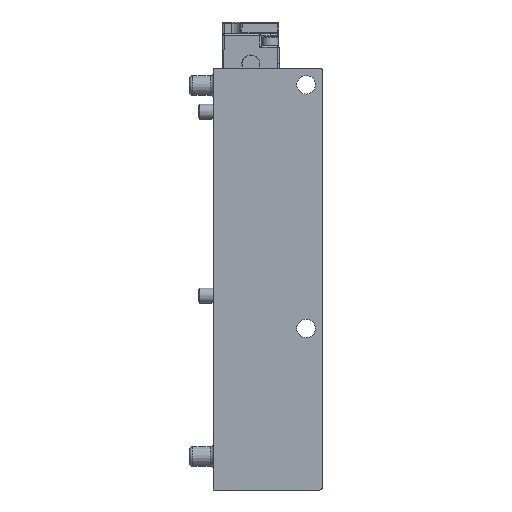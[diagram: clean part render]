
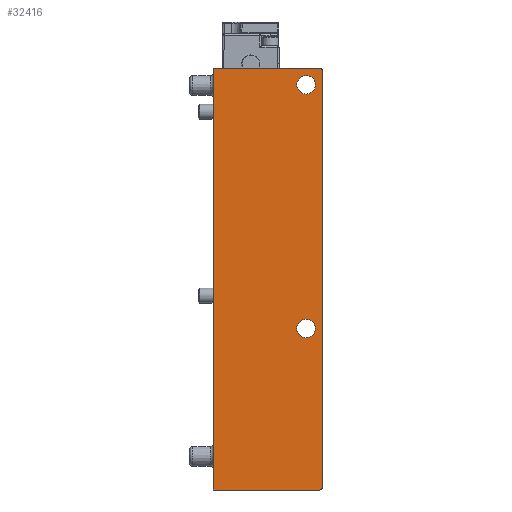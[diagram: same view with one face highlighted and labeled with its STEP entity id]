
A CAD part, front view. The second image highlights one B-rep face of the part: STEP entity #32416.
In plain terms, the highlighted planar face has unit normal (0, -1, 0).
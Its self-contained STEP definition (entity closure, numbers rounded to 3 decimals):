
#2279 = VECTOR ( 'NONE', #80007, 1000. ) ;
#2405 = VERTEX_POINT ( 'NONE', #50021 ) ;
#2565 = EDGE_CURVE ( 'NONE', #52649, #52649, #27931, .T. ) ;
#3887 = FACE_BOUND ( 'NONE', #61712, .T. ) ;
#6764 = DIRECTION ( 'NONE',  ( 1., 0., 0. ) ) ;
#7245 = ORIENTED_EDGE ( 'NONE', *, *, #70561, .F. ) ;
#7317 = CARTESIAN_POINT ( 'NONE',  ( 18.75, 0., 70.5 ) ) ;
#7766 = DIRECTION ( 'NONE',  ( 1., 0., 0. ) ) ;
#8912 = DIRECTION ( 'NONE',  ( 0., -1., 0. ) ) ;
#10322 = CIRCLE ( 'NONE', #57582, 3.093 ) ;
#11714 = LINE ( 'NONE', #28832, #51706 ) ;
#12331 = CARTESIAN_POINT ( 'NONE',  ( 13.25, 0., -16.5 ) ) ;
#13253 = AXIS2_PLACEMENT_3D ( 'NONE', #56800, #8912, #64784 ) ;
#19103 = CARTESIAN_POINT ( 'NONE',  ( 7.75, 0., 70.5 ) ) ;
#19488 = ORIENTED_EDGE ( 'NONE', *, *, #81833, .T. ) ;
#20295 = DIRECTION ( 'NONE',  ( 1., 0., 0. ) ) ;
#21537 = CARTESIAN_POINT ( 'NONE',  ( 18.75, 0., -69.5 ) ) ;
#22509 = EDGE_CURVE ( 'NONE', #98033, #94242, #42981, .T. ) ;
#24144 = CARTESIAN_POINT ( 'NONE',  ( 7.75, 0., 70.5 ) ) ;
#24865 = EDGE_LOOP ( 'NONE', ( #7245, #82029, #90801, #19488, #72263, #35841 ) ) ;
#25000 = FACE_BOUND ( 'NONE', #66107, .T. ) ;
#27121 = DIRECTION ( 'NONE',  ( 1., 0., 0. ) ) ;
#27185 = VECTOR ( 'NONE', #63212, 1000. ) ;
#27931 = CIRCLE ( 'NONE', #85586, 3.093 ) ;
#28832 = CARTESIAN_POINT ( 'NONE',  ( 7.75, 0., -70.5 ) ) ;
#32416 = ADVANCED_FACE ( 'NONE', ( #25000, #3887, #67545 ), #74647, .F. ) ;
#35841 = ORIENTED_EDGE ( 'NONE', *, *, #94249, .T. ) ;
#37251 = LINE ( 'NONE', #37980, #58527 ) ;
#37980 = CARTESIAN_POINT ( 'NONE',  ( -17.75, 0., 70.5 ) ) ;
#42981 = CIRCLE ( 'NONE', #13253, 1. ) ;
#45954 = AXIS2_PLACEMENT_3D ( 'NONE', #103439, #55676, #7766 ) ;
#46028 = DIRECTION ( 'NONE',  ( 0., 0., -1. ) ) ;
#48929 = ORIENTED_EDGE ( 'NONE', *, *, #2565, .T. ) ;
#50021 = CARTESIAN_POINT ( 'NONE',  ( 18.75, 0., 69.5 ) ) ;
#51574 = CARTESIAN_POINT ( 'NONE',  ( -17.75, 0., 70.5 ) ) ;
#51706 = VECTOR ( 'NONE', #69362, 1000. ) ;
#52649 = VERTEX_POINT ( 'NONE', #87013 ) ;
#53485 = CARTESIAN_POINT ( 'NONE',  ( 16.343, 0., 65. ) ) ;
#54563 = CARTESIAN_POINT ( 'NONE',  ( 17.75, 0., -70.5 ) ) ;
#54683 = DIRECTION ( 'NONE',  ( 0., 1., 0. ) ) ;
#55676 = DIRECTION ( 'NONE',  ( 0., -1., 0. ) ) ;
#56800 = CARTESIAN_POINT ( 'NONE',  ( 17.75, 0., -69.5 ) ) ;
#57582 = AXIS2_PLACEMENT_3D ( 'NONE', #102443, #54683, #6764 ) ;
#58527 = VECTOR ( 'NONE', #46028, 1000. ) ;
#61712 = EDGE_LOOP ( 'NONE', ( #91371 ) ) ;
#63212 = DIRECTION ( 'NONE',  ( 0., 0., 1. ) ) ;
#64784 = DIRECTION ( 'NONE',  ( 1., 0., 0. ) ) ;
#64785 = CARTESIAN_POINT ( 'NONE',  ( -17.75, 0., -70.5 ) ) ;
#66107 = EDGE_LOOP ( 'NONE', ( #48929 ) ) ;
#67545 = FACE_OUTER_BOUND ( 'NONE', #24865, .T. ) ;
#68148 = DIRECTION ( 'NONE',  ( 0., 1., 0. ) ) ;
#69362 = DIRECTION ( 'NONE',  ( -1., 0., 0. ) ) ;
#69677 = LINE ( 'NONE', #7317, #27185 ) ;
#70561 = EDGE_CURVE ( 'NONE', #98033, #83329, #11714, .T. ) ;
#72263 = ORIENTED_EDGE ( 'NONE', *, *, #73220, .T. ) ;
#73220 = EDGE_CURVE ( 'NONE', #75977, #81593, #87153, .T. ) ;
#74647 = PLANE ( 'NONE',  #95431 ) ;
#74987 = DIRECTION ( 'NONE',  ( 0., 1., 0. ) ) ;
#75977 = VERTEX_POINT ( 'NONE', #79618 ) ;
#79618 = CARTESIAN_POINT ( 'NONE',  ( 17.75, 0., 70.5 ) ) ;
#80007 = DIRECTION ( 'NONE',  ( -1., 0., 0. ) ) ;
#81593 = VERTEX_POINT ( 'NONE', #51574 ) ;
#81833 = EDGE_CURVE ( 'NONE', #2405, #75977, #103589, .T. ) ;
#82029 = ORIENTED_EDGE ( 'NONE', *, *, #22509, .T. ) ;
#83329 = VERTEX_POINT ( 'NONE', #64785 ) ;
#85586 = AXIS2_PLACEMENT_3D ( 'NONE', #12331, #68148, #20295 ) ;
#87013 = CARTESIAN_POINT ( 'NONE',  ( 16.343, 0., -16.5 ) ) ;
#87153 = LINE ( 'NONE', #24144, #2279 ) ;
#90801 = ORIENTED_EDGE ( 'NONE', *, *, #96380, .T. ) ;
#91371 = ORIENTED_EDGE ( 'NONE', *, *, #95742, .T. ) ;
#94242 = VERTEX_POINT ( 'NONE', #21537 ) ;
#94249 = EDGE_CURVE ( 'NONE', #81593, #83329, #37251, .T. ) ;
#95431 = AXIS2_PLACEMENT_3D ( 'NONE', #19103, #74987, #27121 ) ;
#95742 = EDGE_CURVE ( 'NONE', #99765, #99765, #10322, .T. ) ;
#96380 = EDGE_CURVE ( 'NONE', #94242, #2405, #69677, .T. ) ;
#98033 = VERTEX_POINT ( 'NONE', #54563 ) ;
#99765 = VERTEX_POINT ( 'NONE', #53485 ) ;
#102443 = CARTESIAN_POINT ( 'NONE',  ( 13.25, 0., 65. ) ) ;
#103439 = CARTESIAN_POINT ( 'NONE',  ( 17.75, 0., 69.5 ) ) ;
#103589 = CIRCLE ( 'NONE', #45954, 1. ) ;
